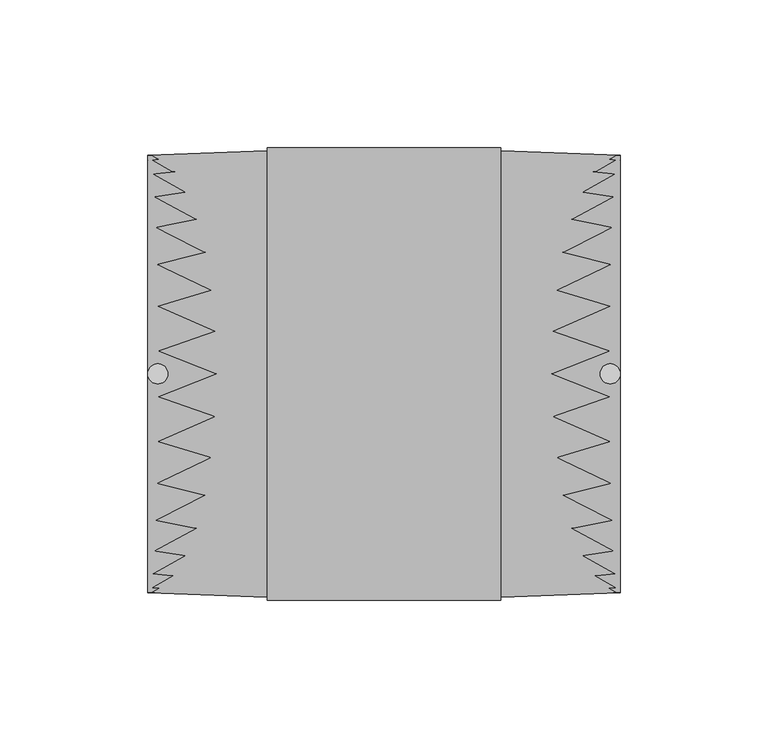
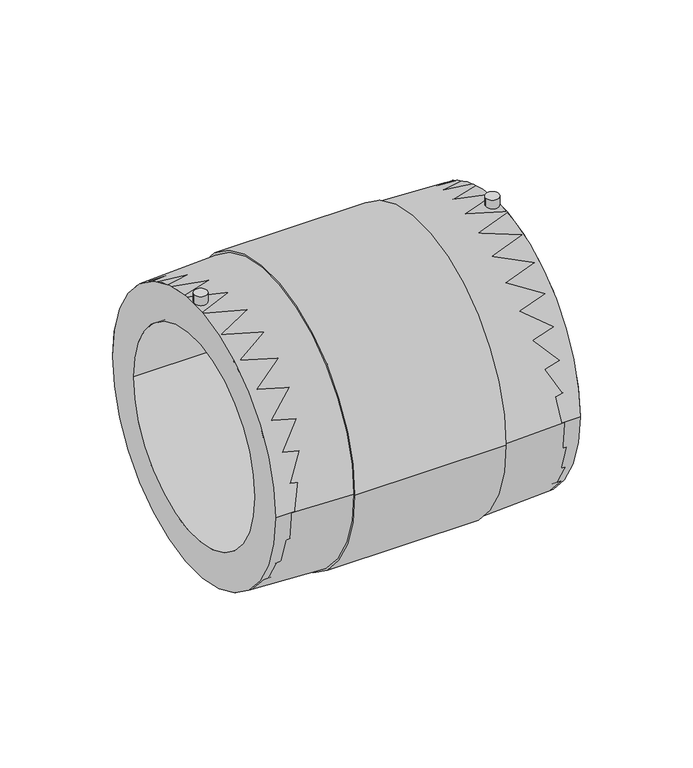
"""IFC4 building model written with IfcOpenShell, lengths in millimetres: pipe fitting geometry, EGB_VASEN_ PPR_Manguito electrosoldable WXRD100 : Manguito electrosoldable WXRD100."""

from ifc_helpers import new_model, si_unit, point, frame, frame_2d, origin, origin_2d, place, context, project, spatial, polyline, circle_curve, trimmed, segment, composite_curve, outline, extrude, source, transform, mapped, element, save
from ifc_brep_helpers import plane_surface, cylinder_surface, revolved_surface, advanced_brep


def pipe_fitting_ed904732(model_context):
    return source(origin(), model_context, "Body", "SolidModel", [
        extrude(outline(composite_curve([segment(trimmed(circle_curve(origin_2d(), 74.0), [point((-74.0, 0.0))], [point((74.0, 0.0))], False, "CARTESIAN"), True, "CONTINUOUS"), segment(trimmed(circle_curve(origin_2d(), 74.0), [point((74.0, 0.0))], [point((-74.0, 0.0))], False, "CARTESIAN"), True, "CONTINUOUS")], self_intersect=False), holes=[composite_curve([segment(trimmed(circle_curve(origin_2d(), 55.0), [point((-55.0, 0.0))], [point((55.0, 0.0))], True, "CARTESIAN"), True, "CONTINUOUS"), segment(trimmed(circle_curve(origin_2d(), 55.0), [point((55.0, 0.0))], [point((-55.0, 0.0))], True, "CARTESIAN"), True, "CONTINUOUS")], self_intersect=False)]), frame((-80.0, 0.0, 0.0), z_axis=(1.0, 0.0, 0.0), x_axis=(0.0, 1.0, 0.0)), (0.0, 0.0, 1.0), 160.0),
        extrude(outline(composite_curve([segment(trimmed(circle_curve(frame_2d((-76.5878802, 0.0)), 3.4121198), [point((-80.0, 0.0))], [point((-73.1757605, 0.0))], False, "CARTESIAN"), True, "CONTINUOUS"), segment(trimmed(circle_curve(frame_2d((-76.5878802, 0.0)), 3.4121198), [point((-73.1757605, 0.0))], [point((-80.0, 0.0))], False, "CARTESIAN"), True, "CONTINUOUS")], self_intersect=False)), frame((0.0, 0.0, 57.0), z_axis=(0.0, 0.0, 1.0), x_axis=(1.0, 0.0, 0.0)), (0.0, 0.0, 1.0), 22.0),
        extrude(outline(composite_curve([segment(trimmed(circle_curve(frame_2d((76.5878802, 0.0)), 3.4121198), [point((73.1757605, 0.0))], [point((80.0, 0.0))], False, "CARTESIAN"), True, "CONTINUOUS"), segment(trimmed(circle_curve(frame_2d((76.5878802, 0.0)), 3.4121198), [point((80.0, 0.0))], [point((73.1757605, 0.0))], False, "CARTESIAN"), True, "CONTINUOUS")], self_intersect=False)), frame((0.0, 0.0, 57.0), z_axis=(0.0, 0.0, 1.0), x_axis=(1.0, 0.0, 0.0)), (0.0, 0.0, 1.0), 22.0),
        advanced_brep(
        [(39.6, -75.582849, 0.0), (39.6, 75.582849, 0.0), (80.0, 74.0, 0.0), (80.0, -74.0, 0.0), (39.6, -76.582849, 0.0), (39.6, 76.582849, 0.0), (-39.6, -76.582849, 0.0), (-39.6, 76.582849, 0.0), (-39.6, -75.582849, 0.0), (-39.6, 75.582849, 0.0), (-80.0, -74.0, 0.0), (-80.0, 74.0, 0.0)],
        [
            (0, 1, circle_curve(frame((39.6, 0.0, 0.0), z_axis=(1.0, 0.0, 0.0), x_axis=(0.0, 1.0, 0.0)), 75.582849)),
            (1, 2),
            (2, 3, circle_curve(frame((80.0, 0.0, 0.0), z_axis=(-1.0, 0.0, 0.0), x_axis=(0.0, 1.0, 0.0)), 74.0)),
            (3, 0),
            (1, 0, circle_curve(frame((39.6, 0.0, 0.0), z_axis=(1.0, 0.0, 0.0), x_axis=(0.0, 1.0, 0.0)), 75.582849)),
            (3, 2, circle_curve(frame((80.0, 0.0, 0.0), z_axis=(-1.0, 0.0, 0.0), x_axis=(0.0, 1.0, 0.0)), 74.0)),
            (4, 5, circle_curve(frame((39.6, 0.0, 0.0), z_axis=(1.0, 0.0, 0.0), x_axis=(0.0, 1.0, 0.0)), 76.582849)),
            (5, 1),
            (0, 4),
            (5, 4, circle_curve(frame((39.6, 0.0, 0.0), z_axis=(1.0, 0.0, 0.0), x_axis=(0.0, 1.0, 0.0)), 76.582849)),
            (6, 7, circle_curve(frame((-39.6, 0.0, 0.0), z_axis=(1.0, 0.0, 0.0), x_axis=(0.0, 1.0, 0.0)), 76.582849)),
            (7, 5),
            (4, 6),
            (7, 6, circle_curve(frame((-39.6, 0.0, 0.0), z_axis=(1.0, 0.0, 0.0), x_axis=(0.0, 1.0, 0.0)), 76.582849)),
            (8, 9, circle_curve(frame((-39.6, 0.0, 0.0), z_axis=(1.0, 0.0, 0.0), x_axis=(0.0, 1.0, 0.0)), 75.582849)),
            (9, 7),
            (6, 8),
            (9, 8, circle_curve(frame((-39.6, 0.0, 0.0), z_axis=(1.0, 0.0, 0.0), x_axis=(0.0, 1.0, 0.0)), 75.582849)),
            (10, 11, circle_curve(frame((-80.0, 0.0, 0.0), z_axis=(1.0, 0.0, 0.0), x_axis=(0.0, 1.0, 0.0)), 74.0)),
            (11, 9),
            (8, 10),
            (11, 10, circle_curve(frame((-80.0, 0.0, 0.0), z_axis=(1.0, 0.0, 0.0), x_axis=(0.0, 1.0, 0.0)), 74.0)),
            (2, 11),
            (10, 3),
        ],
        [
            revolved_surface(polyline([(80.0, 74.0, 0.0), (39.6, 75.582849, 0.0)]), (-73.7721997, 0.0, 0.0), (-1.0, 0.0, 0.0)),
            plane_surface(frame((39.6, 0.0, 0.0), z_axis=(1.0, 0.0, 0.0), x_axis=(0.0, 1.0, 0.0))),
            cylinder_surface(frame((-73.7721997, 0.0, 0.0), z_axis=(-1.0, 0.0, 0.0), x_axis=(0.0, 1.0, 0.0)), 76.582849),
            plane_surface(frame((-39.6, 0.0, 0.0), z_axis=(-1.0, 0.0, 0.0), x_axis=(0.0, 1.0, 0.0))),
            revolved_surface(polyline([(-39.6, 75.582849, 0.0), (-80.0, 74.0, 0.0)]), (-73.7721997, 0.0, 0.0), (-1.0, 0.0, 0.0)),
            revolved_surface(polyline([(-80.0, 74.0, 0.0), (79.99999999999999, 74.0, 0.0)]), (-73.7721997, 0.0, 0.0), (-1.0, 0.0, 0.0)),
        ],
        [
            (0, [[1, 2, 3, 4]]),
            (0, [[5, -4, 6, -2]]),
            (1, [[7, 8, -1, 9]]),
            (1, [[10, -9, -5, -8]]),
            (2, [[11, 12, -7, 13]]),
            (2, [[14, -13, -10, -12]]),
            (3, [[15, 16, -11, 17]]),
            (3, [[18, -17, -14, -16]]),
            (4, [[19, 20, -15, 21]]),
            (4, [[22, -21, -18, -20]]),
            (5, [[-3, 23, -19, 24]]),
            (5, [[-6, -24, -22, -23]]),
        ],
    ),
    ])


if __name__ == "__main__":
    model = new_model("IFC4")
    model_context = context("Model", 3, world=origin())
    ifc_project = project(units=[si_unit("LENGTHUNIT", "METRE", prefix="MILLI")], contexts=[model_context])
    site = spatial("IfcSite", under=ifc_project)
    building = spatial("IfcBuilding", under=site)
    placement = place(None, origin())
    pipe_fitting_shape = pipe_fitting_ed904732(model_context)
    element("IfcPipeFitting", 1, ObjectType="EGB_VASEN_ PPR_Manguito electrosoldable WXRD100 : Manguito electrosoldable WXRD100", at=placement, inside=building, context=model_context, shape_type="MappedRepresentation", body=[
        mapped(pipe_fitting_shape, transform((0.0, 0.0, 0.0), x_axis=(1.0, 0.0, 0.0), y_axis=(0.0, 1.0, 0.0), z_axis=(0.0, 0.0, 1.0))),
    ])
    save(model, "model.ifc")
